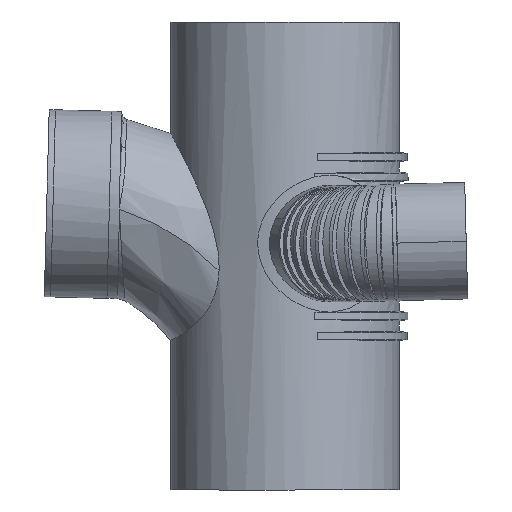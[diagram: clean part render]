
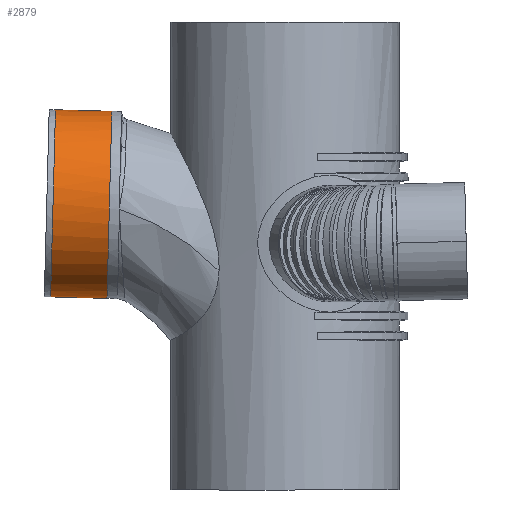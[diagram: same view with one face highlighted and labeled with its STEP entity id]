
A CAD part, front view. The second image highlights one B-rep face of the part: STEP entity #2879.
In plain terms, the highlighted cylindrical face has radius 45.188 mm (diameter 90.375 mm), a partial arc.
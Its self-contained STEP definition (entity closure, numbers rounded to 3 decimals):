
#195=CIRCLE('',#3072,45.187);
#378=FACE_OUTER_BOUND('',#547,.T.);
#547=EDGE_LOOP('',(#2394,#2395,#2396,#2397));
#782=B_SPLINE_CURVE_WITH_KNOTS('',5,(#10088,#10089,#10090,#10091,#10092,
#10093,#10094,#10095,#10096),.UNSPECIFIED.,.F.,.F.,(6,3,6),(0.,79.024,
142.171),.UNSPECIFIED.);
#886=LINE('',#11684,#958);
#887=LINE('',#11685,#959);
#958=VECTOR('',#3657,10.);
#959=VECTOR('',#3658,10.);
#1169=VERTEX_POINT('',#7015);
#1171=VERTEX_POINT('',#7227);
#1205=VERTEX_POINT('',#10086);
#1206=VERTEX_POINT('',#10087);
#1534=EDGE_CURVE('',#1169,#1171,#195,.T.);
#1592=EDGE_CURVE('',#1205,#1206,#782,.F.);
#1632=EDGE_CURVE('',#1169,#1205,#886,.T.);
#1633=EDGE_CURVE('',#1171,#1206,#887,.T.);
#2394=ORIENTED_EDGE('',*,*,#1534,.F.);
#2395=ORIENTED_EDGE('',*,*,#1632,.T.);
#2396=ORIENTED_EDGE('',*,*,#1592,.T.);
#2397=ORIENTED_EDGE('',*,*,#1633,.F.);
#2579=CYLINDRICAL_SURFACE('',#3141,45.187);
#2879=ADVANCED_FACE('',(#378),#2579,.T.);
#3072=AXIS2_PLACEMENT_3D('',#7228,#3507,#3508);
#3141=AXIS2_PLACEMENT_3D('',#11683,#3655,#3656);
#3507=DIRECTION('center_axis',(-1.,0.,
0.026));
#3508=DIRECTION('ref_axis',(-0.026,0.,-1.));
#3655=DIRECTION('center_axis',(-1.,0.,
0.026));
#3656=DIRECTION('ref_axis',(-0.026,0.,-1.));
#3657=DIRECTION('',(1.,0.,-0.026));
#3658=DIRECTION('',(1.,0.,-0.026));
#7015=CARTESIAN_POINT('',(-113.114,0.,93.259));
#7227=CARTESIAN_POINT('',(-110.749,0.,183.603));
#7228=CARTESIAN_POINT('Origin',(-111.932,0.,138.431));
#10086=CARTESIAN_POINT('',(-85.894,0.,92.546));
#10087=CARTESIAN_POINT('',(-83.528,0.,182.89));
#10088=CARTESIAN_POINT('Ctrl Pts',(-83.528,0.,
182.89));
#10089=CARTESIAN_POINT('Ctrl Pts',(-83.528,-15.805,182.89));
#10090=CARTESIAN_POINT('Ctrl Pts',(-83.709,-31.61,175.983));
#10091=CARTESIAN_POINT('Ctrl Pts',(-84.07,-43.185,162.192));
#10092=CARTESIAN_POINT('Ctrl Pts',(-84.86,-50.49,
132.042));
#10093=CARTESIAN_POINT('Ctrl Pts',(-85.547,-35.77,
105.774));
#10094=CARTESIAN_POINT('Ctrl Pts',(-85.778,-25.259,96.957));
#10095=CARTESIAN_POINT('Ctrl Pts',(-85.894,-12.629,
92.546));
#10096=CARTESIAN_POINT('Ctrl Pts',(-85.894,0.,
92.546));
#11683=CARTESIAN_POINT('Origin',(-98.321,0.,138.075));
#11684=CARTESIAN_POINT('',(-113.114,0.,93.259));
#11685=CARTESIAN_POINT('',(-110.749,0.,183.603));
